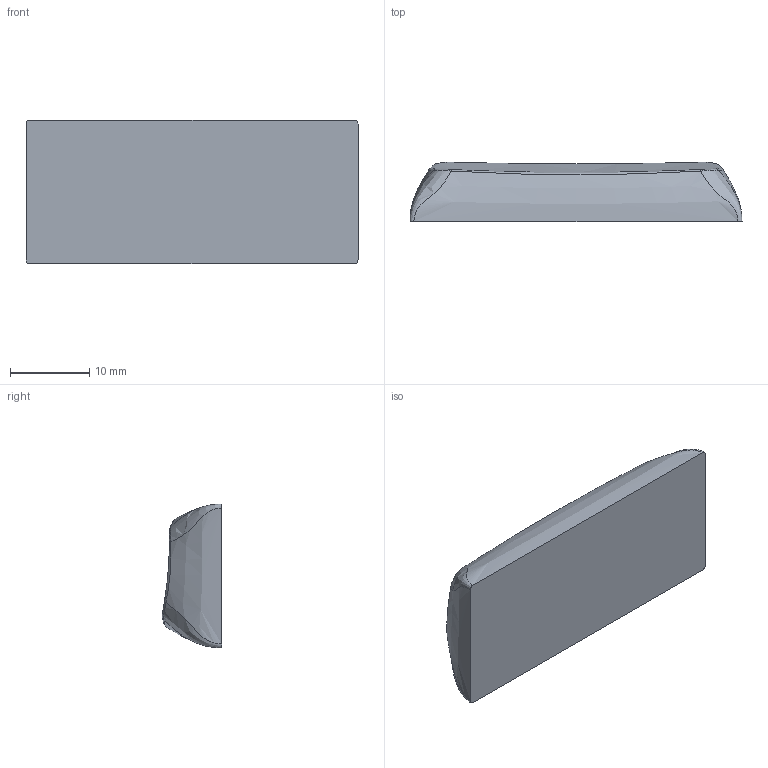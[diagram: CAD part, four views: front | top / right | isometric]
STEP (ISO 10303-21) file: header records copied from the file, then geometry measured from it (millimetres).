
FILE_DESCRIPTION (( 'STEP AP203' ), '1' );
FILE_NAME ('R3_2,25U_base_v3.2_GMK.STEP', '2023-03-07T10:09:12', ( '' ), ( '' ), 'SwSTEP 2.0', 'SolidWorks 2022', '' );
FILE_SCHEMA (( 'CONFIG_CONTROL_DESIGN' ));
Length unit declared in the file: millimetre
Products named in the file (1): R3_2,25U_base_v3.2_GMK
Bounding box: 42.01 x 7.53 x 18.2 mm (x, y, z)
Volume: 4360.6 mm3; surface area: 2057.6 mm2
Topology: 1 solids, 1 shells, 18 faces, 40 edges, 24 vertices
Faces by surface type: bspline 17, plane 1
Entity records: 3063 total; most frequent: CARTESIAN_POINT 2733, ORIENTED_EDGE 80, EDGE_CURVE 40, B_SPLINE_CURVE_WITH_KNOTS 35, VERTEX_POINT 24, ADVANCED_FACE 18, EDGE_LOOP 18, FACE_OUTER_BOUND 18
